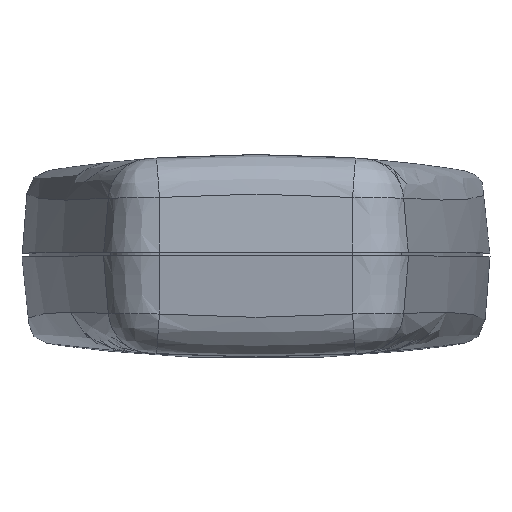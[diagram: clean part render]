
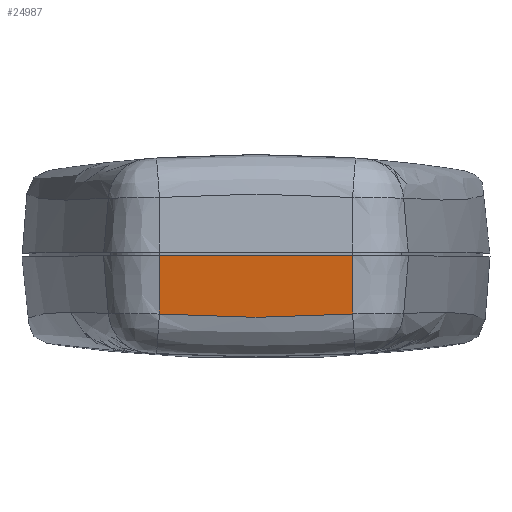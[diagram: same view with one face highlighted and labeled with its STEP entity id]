
A CAD part, top view. The second image highlights one B-rep face of the part: STEP entity #24987.
In plain terms, the highlighted planar face has unit normal (0, -0.087, 0.996).
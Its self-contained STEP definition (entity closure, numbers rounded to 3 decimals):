
#534 = AXIS2_PLACEMENT_3D ( 'NONE', #23943, #28835, #26898 ) ;
#2322 = VECTOR ( 'NONE', #29433, 1000. ) ;
#3315 = ORIENTED_EDGE ( 'NONE', *, *, #21282, .T. ) ;
#3778 = EDGE_CURVE ( 'NONE', #25920, #27862, #22591, .T. ) ;
#4159 = CARTESIAN_POINT ( 'NONE',  ( -13.359, -8.064, -0.705 ) ) ;
#5329 = VERTEX_POINT ( 'NONE', #17628 ) ;
#5717 = CARTESIAN_POINT ( 'NONE',  ( 4.453, -8.677, -0.759 ) ) ;
#6266 = CARTESIAN_POINT ( 'NONE',  ( -4.453, -8.677, -0.759 ) ) ;
#8143 = VECTOR ( 'NONE', #16662, 1000. ) ;
#8215 = ORIENTED_EDGE ( 'NONE', *, *, #3778, .T. ) ;
#9455 = DIRECTION ( 'NONE',  ( 0., -0.996, -0.087 ) ) ;
#9848 = LINE ( 'NONE', #10517, #8143 ) ;
#9980 = B_SPLINE_CURVE_WITH_KNOTS ( 'NONE', 3,
 ( #4159, #6266, #5717, #23883 ),
 .UNSPECIFIED., .F., .F.,
 ( 4, 4 ),
 ( 0., 1. ),
 .UNSPECIFIED. ) ;
#10517 = CARTESIAN_POINT ( 'NONE',  ( 13.359, 0., 0. ) ) ;
#11505 = VERTEX_POINT ( 'NONE', #27232 ) ;
#12082 = ORIENTED_EDGE ( 'NONE', *, *, #15417, .T. ) ;
#12486 = CARTESIAN_POINT ( 'NONE',  ( 13.359, 0., 0. ) ) ;
#14829 = FACE_OUTER_BOUND ( 'NONE', #28960, .T. ) ;
#15417 = EDGE_CURVE ( 'NONE', #27862, #11505, #18059, .T. ) ;
#16662 = DIRECTION ( 'NONE',  ( 0., 0.996, 0.087 ) ) ;
#17628 = CARTESIAN_POINT ( 'NONE',  ( 13.359, -8.062, -0.705 ) ) ;
#18059 = LINE ( 'NONE', #25379, #18552 ) ;
#18552 = VECTOR ( 'NONE', #9455, 1000. ) ;
#19604 = EDGE_CURVE ( 'NONE', #5329, #25920, #9848, .T. ) ;
#19898 = CARTESIAN_POINT ( 'NONE',  ( -13.359, 0., 0. ) ) ;
#20732 = ORIENTED_EDGE ( 'NONE', *, *, #19604, .T. ) ;
#21282 = EDGE_CURVE ( 'NONE', #11505, #5329, #9980, .T. ) ;
#22591 = LINE ( 'NONE', #28989, #2322 ) ;
#23883 = CARTESIAN_POINT ( 'NONE',  ( 13.359, -8.062, -0.705 ) ) ;
#23943 = CARTESIAN_POINT ( 'NONE',  ( -32.5, 0., 0. ) ) ;
#24987 = ADVANCED_FACE ( 'NONE', ( #14829 ), #26305, .T. ) ;
#25379 = CARTESIAN_POINT ( 'NONE',  ( -13.359, 0., 0. ) ) ;
#25920 = VERTEX_POINT ( 'NONE', #12486 ) ;
#26305 = PLANE ( 'NONE',  #534 ) ;
#26898 = DIRECTION ( 'NONE',  ( 0., -0.996, -0.087 ) ) ;
#27232 = CARTESIAN_POINT ( 'NONE',  ( -13.359, -8.064, -0.705 ) ) ;
#27862 = VERTEX_POINT ( 'NONE', #19898 ) ;
#28835 = DIRECTION ( 'NONE',  ( 0., -0.087, 0.996 ) ) ;
#28960 = EDGE_LOOP ( 'NONE', ( #12082, #3315, #20732, #8215 ) ) ;
#28989 = CARTESIAN_POINT ( 'NONE',  ( -32.5, 0., 0. ) ) ;
#29433 = DIRECTION ( 'NONE',  ( -1., 0., 0. ) ) ;
